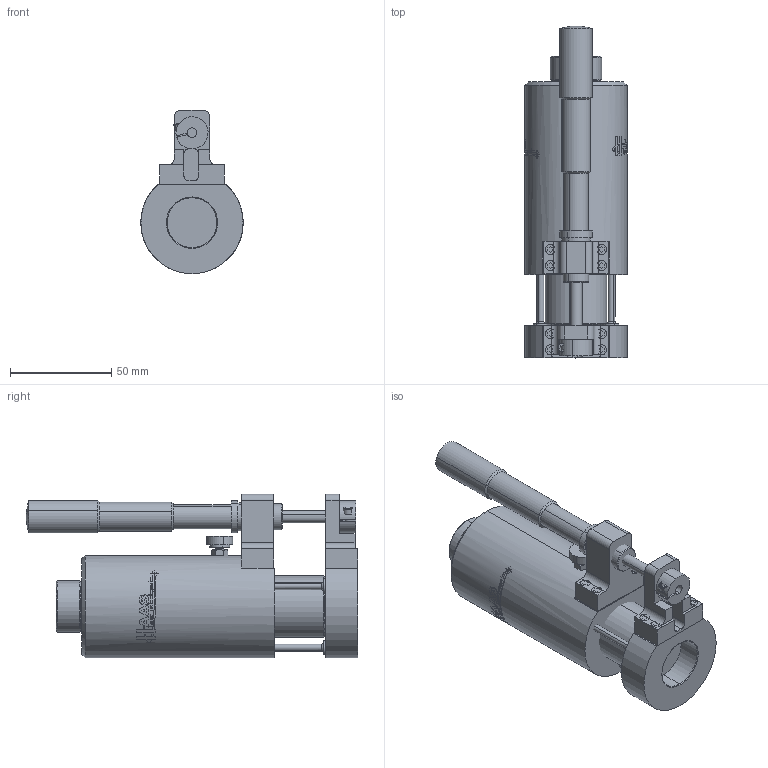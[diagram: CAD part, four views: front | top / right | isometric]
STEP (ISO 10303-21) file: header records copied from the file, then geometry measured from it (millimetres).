
FILE_DESCRIPTION (( 'STEP AP214' ), '1' );
FILE_NAME ('LAM-19-50.STEP', '2016-05-27T17:50:53', ( '' ), ( '' ), 'SwSTEP 2.0', 'SolidWorks 2016', '' );
FILE_SCHEMA (( 'AUTOMOTIVE_DESIGN' ));
Length unit declared in the file: inch
Products named in the file (1): LAM-19-50
Bounding box: 50.55 x 164.12 x 80.85 mm (x, y, z)
Volume: 329693.5 mm3; surface area: 61247.2 mm2
Topology: 29 solids, 29 shells, 575 faces, 1696 edges, 1263 vertices
Faces by surface type: plane 238, cylinder 207, cone 86, torus 40, sphere 4
Entity records: 22519 total; most frequent: CARTESIAN_POINT 7299, ORIENTED_EDGE 3350, DIRECTION 2675, EDGE_CURVE 1675, VERTEX_POINT 1260, AXIS2_PLACEMENT_3D 1048, EDGE_LOOP 681, B_SPLINE_CURVE_WITH_KNOTS 606
